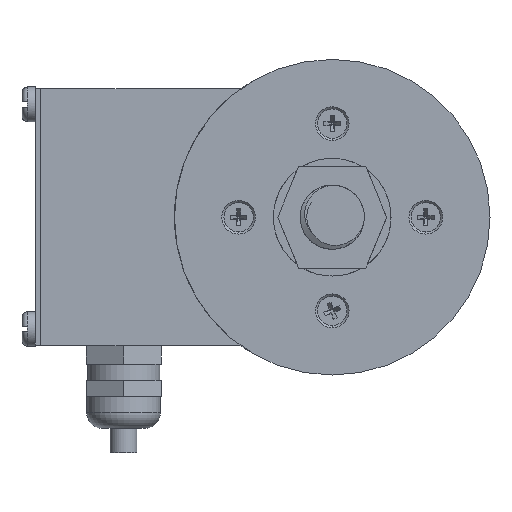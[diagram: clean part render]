
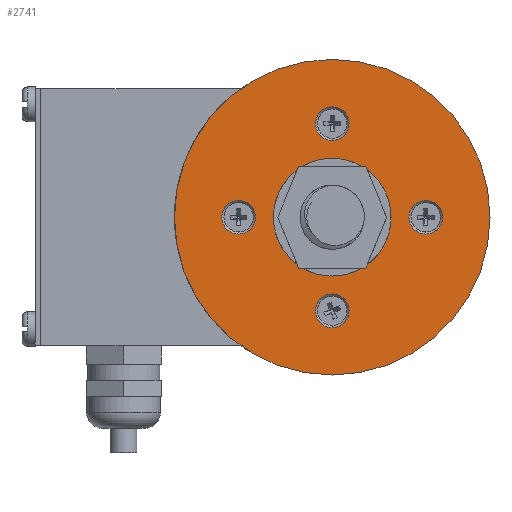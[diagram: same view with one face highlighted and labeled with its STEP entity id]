
A CAD part, front view. The second image highlights one B-rep face of the part: STEP entity #2741.
In plain terms, the highlighted planar face has unit normal (0, -1, 0).
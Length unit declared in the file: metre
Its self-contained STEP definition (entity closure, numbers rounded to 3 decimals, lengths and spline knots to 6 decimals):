
#1953 = CARTESIAN_POINT ( 'NONE',  ( -0.01173, 0.003431, 0.03725 ) ) ;
#1983 = CARTESIAN_POINT ( 'NONE',  ( -0.01173, 0.003431, 0.01875 ) ) ;
#2741 = ADVANCED_FACE ( 'NONE', ( #5302, #5309, #5304, #5307, #5306, #5311 ), #7319, .F. ) ;
#3319 = CIRCLE ( 'NONE', #10344, 0.00315 ) ;
#3328 = CIRCLE ( 'NONE', #10346, 0.00315 ) ;
#3335 = CIRCLE ( 'NONE', #10348, 0.00315 ) ;
#3340 = CIRCLE ( 'NONE', #10350, 0.00315 ) ;
#3345 = CIRCLE ( 'NONE', #10352, 0.011 ) ;
#3367 = CIRCLE ( 'NONE', #10360, 0.0295 ) ;
#3443 = CIRCLE ( 'NONE', #10375, 0.00315 ) ;
#3572 = CIRCLE ( 'NONE', #10395, 0.011 ) ;
#3575 = CIRCLE ( 'NONE', #10398, 0.00315 ) ;
#3577 = CIRCLE ( 'NONE', #10400, 0.0295 ) ;
#3578 = CIRCLE ( 'NONE', #10401, 0.00315 ) ;
#3580 = CIRCLE ( 'NONE', #10403, 0.00315 ) ;
#5302 = FACE_BOUND ( 'NONE', #11457, .T. ) ;
#5304 = FACE_BOUND ( 'NONE', #11462, .T. ) ;
#5306 = FACE_OUTER_BOUND ( 'NONE', #11470, .T. ) ;
#5307 = FACE_BOUND ( 'NONE', #11446, .T. ) ;
#5309 = FACE_BOUND ( 'NONE', #11453, .T. ) ;
#5311 = FACE_BOUND ( 'NONE', #11440, .T. ) ;
#5467 = VERTEX_POINT ( 'NONE', #1953 ) ;
#5513 = VERTEX_POINT ( 'NONE', #1983 ) ;
#7319 = PLANE ( 'NONE',  #10142 ) ;
#7350 = CARTESIAN_POINT ( 'NONE',  ( -0.04123, 0.003431, 0.00775 ) ) ;
#7352 = DIRECTION ( 'NONE',  ( 0., 1., 0. ) ) ;
#7353 = DIRECTION ( 'NONE',  ( 0., 0., 1. ) ) ;
#8652 = CARTESIAN_POINT ( 'NONE',  ( -0.01173, 0.003431, -0.0129 ) ) ;
#8664 = CARTESIAN_POINT ( 'NONE',  ( 0.00577, 0.003431, 0.0046 ) ) ;
#8667 = CARTESIAN_POINT ( 'NONE',  ( -0.01173, 0.003431, -0.02175 ) ) ;
#8675 = CARTESIAN_POINT ( 'NONE',  ( -0.01173, 0.003431, -0.00325 ) ) ;
#9308 = CARTESIAN_POINT ( 'NONE',  ( -0.01173, 0.003431, 0.02525 ) ) ;
#9309 = DIRECTION ( 'NONE',  ( 0., -1., 0. ) ) ;
#9310 = DIRECTION ( 'NONE',  ( 0., 0., -1. ) ) ;
#9321 = CARTESIAN_POINT ( 'NONE',  ( 0.00577, 0.003431, 0.00775 ) ) ;
#9322 = DIRECTION ( 'NONE',  ( 0., -1., 0. ) ) ;
#9323 = DIRECTION ( 'NONE',  ( 0., 0., -1. ) ) ;
#9330 = CARTESIAN_POINT ( 'NONE',  ( -0.01173, 0.003431, -0.00975 ) ) ;
#9331 = DIRECTION ( 'NONE',  ( 0., -1., 0. ) ) ;
#9332 = DIRECTION ( 'NONE',  ( 0., 0., -1. ) ) ;
#9340 = CARTESIAN_POINT ( 'NONE',  ( -0.02923, 0.003431, 0.00775 ) ) ;
#9341 = DIRECTION ( 'NONE',  ( 0., -1., 0. ) ) ;
#9342 = DIRECTION ( 'NONE',  ( 0., 0., -1. ) ) ;
#9350 = CARTESIAN_POINT ( 'NONE',  ( -0.01173, 0.003431, 0.00775 ) ) ;
#9351 = DIRECTION ( 'NONE',  ( 0., -1., 0. ) ) ;
#9352 = DIRECTION ( 'NONE',  ( 0., 0., 1. ) ) ;
#9384 = CARTESIAN_POINT ( 'NONE',  ( -0.01173, 0.003431, 0.00775 ) ) ;
#9385 = DIRECTION ( 'NONE',  ( 0., -1., 0. ) ) ;
#9386 = DIRECTION ( 'NONE',  ( 0., 0., -1. ) ) ;
#9496 = CARTESIAN_POINT ( 'NONE',  ( -0.02923, 0.003431, 0.00775 ) ) ;
#9497 = DIRECTION ( 'NONE',  ( 0., -1., 0. ) ) ;
#9498 = DIRECTION ( 'NONE',  ( 0., 0., -1. ) ) ;
#9720 = CARTESIAN_POINT ( 'NONE',  ( -0.01173, 0.003431, 0.00775 ) ) ;
#9721 = DIRECTION ( 'NONE',  ( 0., -1., 0. ) ) ;
#9722 = DIRECTION ( 'NONE',  ( 0., 0., 1. ) ) ;
#9729 = CARTESIAN_POINT ( 'NONE',  ( -0.01173, 0.003431, -0.00975 ) ) ;
#9730 = DIRECTION ( 'NONE',  ( 0., -1., 0. ) ) ;
#9731 = DIRECTION ( 'NONE',  ( 0., 0., -1. ) ) ;
#9735 = CARTESIAN_POINT ( 'NONE',  ( -0.01173, 0.003431, 0.00775 ) ) ;
#9736 = DIRECTION ( 'NONE',  ( 0., -1., 0. ) ) ;
#9737 = DIRECTION ( 'NONE',  ( 0., 0., -1. ) ) ;
#9738 = CARTESIAN_POINT ( 'NONE',  ( -0.01173, 0.003431, 0.02525 ) ) ;
#9739 = DIRECTION ( 'NONE',  ( 0., -1., 0. ) ) ;
#9740 = DIRECTION ( 'NONE',  ( 0., 0., -1. ) ) ;
#9748 = CARTESIAN_POINT ( 'NONE',  ( 0.00577, 0.003431, 0.00775 ) ) ;
#9749 = DIRECTION ( 'NONE',  ( 0., -1., 0. ) ) ;
#9750 = DIRECTION ( 'NONE',  ( 0., 0., -1. ) ) ;
#9917 = CARTESIAN_POINT ( 'NONE',  ( -0.02923, 0.003431, 0.0109 ) ) ;
#9918 = CARTESIAN_POINT ( 'NONE',  ( -0.01173, 0.003431, 0.0221 ) ) ;
#9923 = CARTESIAN_POINT ( 'NONE',  ( 0.00577, 0.003431, 0.0109 ) ) ;
#9928 = CARTESIAN_POINT ( 'NONE',  ( -0.01173, 0.003431, -0.0066 ) ) ;
#9950 = CARTESIAN_POINT ( 'NONE',  ( -0.02923, 0.003431, 0.0046 ) ) ;
#9951 = CARTESIAN_POINT ( 'NONE',  ( -0.01173, 0.003431, 0.0284 ) ) ;
#10142 = AXIS2_PLACEMENT_3D ( 'NONE', #7350, #7352, #7353 ) ;
#10344 = AXIS2_PLACEMENT_3D ( 'NONE', #9308, #9309, #9310 ) ;
#10346 = AXIS2_PLACEMENT_3D ( 'NONE', #9321, #9322, #9323 ) ;
#10348 = AXIS2_PLACEMENT_3D ( 'NONE', #9330, #9331, #9332 ) ;
#10350 = AXIS2_PLACEMENT_3D ( 'NONE', #9340, #9341, #9342 ) ;
#10352 = AXIS2_PLACEMENT_3D ( 'NONE', #9350, #9351, #9352 ) ;
#10360 = AXIS2_PLACEMENT_3D ( 'NONE', #9384, #9385, #9386 ) ;
#10375 = AXIS2_PLACEMENT_3D ( 'NONE', #9496, #9497, #9498 ) ;
#10395 = AXIS2_PLACEMENT_3D ( 'NONE', #9720, #9721, #9722 ) ;
#10398 = AXIS2_PLACEMENT_3D ( 'NONE', #9729, #9730, #9731 ) ;
#10400 = AXIS2_PLACEMENT_3D ( 'NONE', #9735, #9736, #9737 ) ;
#10401 = AXIS2_PLACEMENT_3D ( 'NONE', #9738, #9739, #9740 ) ;
#10403 = AXIS2_PLACEMENT_3D ( 'NONE', #9748, #9749, #9750 ) ;
#10631 = VERTEX_POINT ( 'NONE', #8664 ) ;
#10633 = VERTEX_POINT ( 'NONE', #8652 ) ;
#10667 = VERTEX_POINT ( 'NONE', #8667 ) ;
#10703 = VERTEX_POINT ( 'NONE', #8675 ) ;
#11440 = EDGE_LOOP ( 'NONE', ( #12330, #12286 ) ) ;
#11446 = EDGE_LOOP ( 'NONE', ( #12358, #12302 ) ) ;
#11453 = EDGE_LOOP ( 'NONE', ( #12328, #12343 ) ) ;
#11457 = EDGE_LOOP ( 'NONE', ( #12315, #12327 ) ) ;
#11462 = EDGE_LOOP ( 'NONE', ( #12368, #12332 ) ) ;
#11470 = EDGE_LOOP ( 'NONE', ( #12281, #12294 ) ) ;
#12281 = ORIENTED_EDGE ( 'NONE', *, *, #12593, .T. ) ;
#12286 = ORIENTED_EDGE ( 'NONE', *, *, #12579, .F. ) ;
#12294 = ORIENTED_EDGE ( 'NONE', *, *, #12903, .T. ) ;
#12302 = ORIENTED_EDGE ( 'NONE', *, *, #12575, .F. ) ;
#12315 = ORIENTED_EDGE ( 'NONE', *, *, #12904, .F. ) ;
#12327 = ORIENTED_EDGE ( 'NONE', *, *, #12562, .F. ) ;
#12328 = ORIENTED_EDGE ( 'NONE', *, *, #12906, .F. ) ;
#12330 = ORIENTED_EDGE ( 'NONE', *, *, #12898, .F. ) ;
#12332 = ORIENTED_EDGE ( 'NONE', *, *, #12571, .F. ) ;
#12343 = ORIENTED_EDGE ( 'NONE', *, *, #12567, .F. ) ;
#12358 = ORIENTED_EDGE ( 'NONE', *, *, #12817, .F. ) ;
#12368 = ORIENTED_EDGE ( 'NONE', *, *, #12901, .F. ) ;
#12562 = EDGE_CURVE ( 'NONE', #13229, #13196, #3319, .T. ) ;
#12567 = EDGE_CURVE ( 'NONE', #13199, #10631, #3328, .T. ) ;
#12571 = EDGE_CURVE ( 'NONE', #13206, #10633, #3335, .T. ) ;
#12575 = EDGE_CURVE ( 'NONE', #13194, #13228, #3340, .T. ) ;
#12579 = EDGE_CURVE ( 'NONE', #10703, #5513, #3345, .T. ) ;
#12593 = EDGE_CURVE ( 'NONE', #10667, #5467, #3367, .T. ) ;
#12817 = EDGE_CURVE ( 'NONE', #13228, #13194, #3443, .T. ) ;
#12898 = EDGE_CURVE ( 'NONE', #5513, #10703, #3572, .T. ) ;
#12901 = EDGE_CURVE ( 'NONE', #10633, #13206, #3575, .T. ) ;
#12903 = EDGE_CURVE ( 'NONE', #5467, #10667, #3577, .T. ) ;
#12904 = EDGE_CURVE ( 'NONE', #13196, #13229, #3578, .T. ) ;
#12906 = EDGE_CURVE ( 'NONE', #10631, #13199, #3580, .T. ) ;
#13194 = VERTEX_POINT ( 'NONE', #9917 ) ;
#13196 = VERTEX_POINT ( 'NONE', #9918 ) ;
#13199 = VERTEX_POINT ( 'NONE', #9923 ) ;
#13206 = VERTEX_POINT ( 'NONE', #9928 ) ;
#13228 = VERTEX_POINT ( 'NONE', #9950 ) ;
#13229 = VERTEX_POINT ( 'NONE', #9951 ) ;
